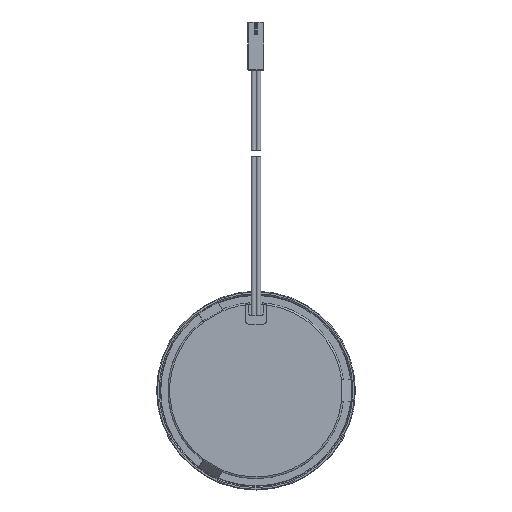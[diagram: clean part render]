
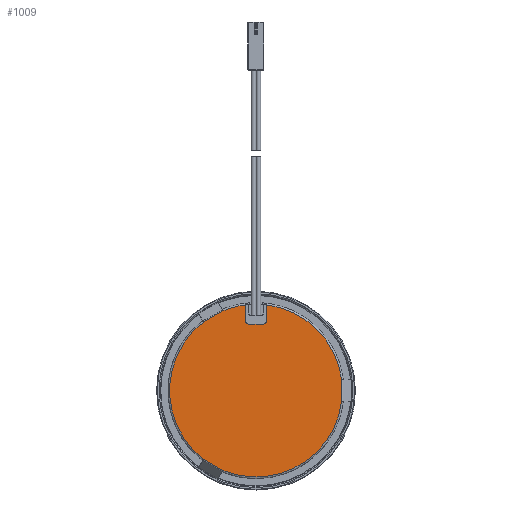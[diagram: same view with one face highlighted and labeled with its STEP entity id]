
A CAD part, front view. The second image highlights one B-rep face of the part: STEP entity #1009.
In plain terms, the highlighted planar face has unit normal (0, -1, 0) as drawn and (0, 1, 0) by its records, which use the part's own axes.
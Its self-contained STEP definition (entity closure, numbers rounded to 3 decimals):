
#101 = DIRECTION ( 'NONE',  ( 0., 0., 1. ) ) ;
#418 = DIRECTION ( 'NONE',  ( 0., 1., 0. ) ) ;
#492 = CARTESIAN_POINT ( 'NONE',  ( -26.95, 0.35, 22. ) ) ;
#668 = PLANE ( 'NONE',  #20689 ) ;
#790 = DIRECTION ( 'NONE',  ( 0., 1., 0. ) ) ;
#816 = AXIS2_PLACEMENT_3D ( 'NONE', #12785, #790, #12912 ) ;
#823 = CARTESIAN_POINT ( 'NONE',  ( 10.329, 0.35, 24.891 ) ) ;
#829 = LINE ( 'NONE', #24088, #5940 ) ;
#1009 = ADVANCED_FACE ( 'NONE', ( #19828 ), #668, .T. ) ;
#1174 = EDGE_CURVE ( 'NONE', #8204, #12842, #10904, .T. ) ;
#1903 = ORIENTED_EDGE ( 'NONE', *, *, #22301, .F. ) ;
#1961 = VECTOR ( 'NONE', #2974, 1000. ) ;
#2528 = DIRECTION ( 'NONE',  ( -1., 0., 0. ) ) ;
#2917 = ORIENTED_EDGE ( 'NONE', *, *, #1174, .T. ) ;
#2974 = DIRECTION ( 'NONE',  ( 0., 0., -1. ) ) ;
#3031 = DIRECTION ( 'NONE',  ( 0., 0., -1. ) ) ;
#3243 = CARTESIAN_POINT ( 'NONE',  ( 10.32, 0.35, 24.896 ) ) ;
#3554 = DIRECTION ( 'NONE',  ( -0.866, 0., 0.5 ) ) ;
#3573 = ORIENTED_EDGE ( 'NONE', *, *, #12156, .F. ) ;
#3637 = CARTESIAN_POINT ( 'NONE',  ( 3.25, 0.35, 23. ) ) ;
#3668 = CIRCLE ( 'NONE', #816, 26.95 ) ;
#4384 = VERTEX_POINT ( 'NONE', #20883 ) ;
#4567 = CARTESIAN_POINT ( 'NONE',  ( -2.25, 0.35, 23. ) ) ;
#4695 = CIRCLE ( 'NONE', #18973, 1. ) ;
#4930 = ORIENTED_EDGE ( 'NONE', *, *, #24999, .T. ) ;
#5271 = EDGE_CURVE ( 'NONE', #7875, #11444, #7394, .T. ) ;
#5638 = CARTESIAN_POINT ( 'NONE',  ( 16.4, 0.35, -21.386 ) ) ;
#5750 = VECTOR ( 'NONE', #2528, 1000. ) ;
#5768 = LINE ( 'NONE', #23132, #18074 ) ;
#5940 = VECTOR ( 'NONE', #22288, 1000. ) ;
#5982 = VERTEX_POINT ( 'NONE', #13988 ) ;
#6617 = VERTEX_POINT ( 'NONE', #13042 ) ;
#6796 = CARTESIAN_POINT ( 'NONE',  ( -6.852, 0.35, 34.81 ) ) ;
#7118 = VECTOR ( 'NONE', #8191, 1000. ) ;
#7320 = CARTESIAN_POINT ( 'NONE',  ( 3.25, 0.35, 0. ) ) ;
#7381 = CARTESIAN_POINT ( 'NONE',  ( 10.329, 0.35, -24.891 ) ) ;
#7394 = LINE ( 'NONE', #21050, #8276 ) ;
#7541 = EDGE_LOOP ( 'NONE', ( #21413, #17730, #3573, #21787, #19519, #2917, #7972, #8247, #21206, #9332, #22947, #7944, #18756, #13406, #1903, #23851, #11346, #4930 ) ) ;
#7691 = CIRCLE ( 'NONE', #9326, 26.95 ) ;
#7875 = VERTEX_POINT ( 'NONE', #9875 ) ;
#7914 = VECTOR ( 'NONE', #20908, 1000. ) ;
#7944 = ORIENTED_EDGE ( 'NONE', *, *, #16512, .F. ) ;
#7948 = CARTESIAN_POINT ( 'NONE',  ( -6.852, 0.35, -34.81 ) ) ;
#7972 = ORIENTED_EDGE ( 'NONE', *, *, #17054, .F. ) ;
#8191 = DIRECTION ( 'NONE',  ( 0.866, 0., 0.5 ) ) ;
#8204 = VERTEX_POINT ( 'NONE', #13019 ) ;
#8247 = ORIENTED_EDGE ( 'NONE', *, *, #5271, .F. ) ;
#8276 = VECTOR ( 'NONE', #3554, 1000. ) ;
#8715 = LINE ( 'NONE', #6796, #13624 ) ;
#9063 = CARTESIAN_POINT ( 'NONE',  ( -26.72, 0.35, 0. ) ) ;
#9326 = AXIS2_PLACEMENT_3D ( 'NONE', #22969, #20539, #13000 ) ;
#9332 = ORIENTED_EDGE ( 'NONE', *, *, #10248, .T. ) ;
#9512 = EDGE_CURVE ( 'NONE', #17573, #18003, #23989, .T. ) ;
#9559 = DIRECTION ( 'NONE',  ( 0., 0., 1. ) ) ;
#9875 = CARTESIAN_POINT ( 'NONE',  ( 16.391, 0.35, 21.391 ) ) ;
#10248 = EDGE_CURVE ( 'NONE', #11213, #17254, #3668, .T. ) ;
#10505 = DIRECTION ( 'NONE',  ( -0.866, 0., 0.5 ) ) ;
#10743 = DIRECTION ( 'NONE',  ( 0., 1., 0. ) ) ;
#10757 = AXIS2_PLACEMENT_3D ( 'NONE', #17598, #17976, #101 ) ;
#10904 = CIRCLE ( 'NONE', #14166, 26.95 ) ;
#11030 = DIRECTION ( 'NONE',  ( 0., 1., 0. ) ) ;
#11213 = VERTEX_POINT ( 'NONE', #22692 ) ;
#11346 = ORIENTED_EDGE ( 'NONE', *, *, #22928, .F. ) ;
#11444 = VERTEX_POINT ( 'NONE', #823 ) ;
#12156 = EDGE_CURVE ( 'NONE', #20946, #16753, #17623, .T. ) ;
#12358 = CARTESIAN_POINT ( 'NONE',  ( -26.72, 0.35, 3.5 ) ) ;
#12785 = CARTESIAN_POINT ( 'NONE',  ( 0., 0.35, 0. ) ) ;
#12842 = VERTEX_POINT ( 'NONE', #3243 ) ;
#12912 = DIRECTION ( 'NONE',  ( 0., 0., 1. ) ) ;
#13000 = DIRECTION ( 'NONE',  ( 0., 0., 1. ) ) ;
#13019 = CARTESIAN_POINT ( 'NONE',  ( 3.25, 0.35, 26.753 ) ) ;
#13042 = CARTESIAN_POINT ( 'NONE',  ( 10.329, 0.35, -24.891 ) ) ;
#13377 = CARTESIAN_POINT ( 'NONE',  ( 0., 0.35, 0. ) ) ;
#13406 = ORIENTED_EDGE ( 'NONE', *, *, #16712, .T. ) ;
#13624 = VECTOR ( 'NONE', #10505, 1000. ) ;
#13666 = DIRECTION ( 'NONE',  ( 0.866, 0., 0.5 ) ) ;
#13800 = LINE ( 'NONE', #7948, #7118 ) ;
#13940 = CARTESIAN_POINT ( 'NONE',  ( -26.95, 0.35, 0. ) ) ;
#13976 = EDGE_CURVE ( 'NONE', #16753, #5982, #19361, .T. ) ;
#13988 = CARTESIAN_POINT ( 'NONE',  ( -3.25, 0.35, 23. ) ) ;
#14010 = VECTOR ( 'NONE', #25141, 1000. ) ;
#14166 = AXIS2_PLACEMENT_3D ( 'NONE', #13377, #10743, #9559 ) ;
#14799 = DIRECTION ( 'NONE',  ( 0., 0., -1. ) ) ;
#14922 = VERTEX_POINT ( 'NONE', #15441 ) ;
#15342 = DIRECTION ( 'NONE',  ( -0.866, 0., 0.5 ) ) ;
#15374 = DIRECTION ( 'NONE',  ( 0., 0., 1. ) ) ;
#15441 = CARTESIAN_POINT ( 'NONE',  ( -26.72, 0.35, -3.51 ) ) ;
#15534 = CARTESIAN_POINT ( 'NONE',  ( -3.25, 0.35, 0. ) ) ;
#15635 = CARTESIAN_POINT ( 'NONE',  ( -26.72, 0.35, -3.5 ) ) ;
#16358 = CARTESIAN_POINT ( 'NONE',  ( -26.72, 0.35, 3.5 ) ) ;
#16512 = EDGE_CURVE ( 'NONE', #6617, #4384, #21162, .T. ) ;
#16712 = EDGE_CURVE ( 'NONE', #17800, #14922, #16902, .T. ) ;
#16753 = VERTEX_POINT ( 'NONE', #17854 ) ;
#16800 = CARTESIAN_POINT ( 'NONE',  ( 2.25, 0.35, 23. ) ) ;
#16902 = CIRCLE ( 'NONE', #10757, 26.95 ) ;
#17023 = CARTESIAN_POINT ( 'NONE',  ( 2.25, 0.35, 22. ) ) ;
#17054 = EDGE_CURVE ( 'NONE', #11444, #12842, #8715, .T. ) ;
#17254 = VERTEX_POINT ( 'NONE', #5638 ) ;
#17420 = EDGE_CURVE ( 'NONE', #4384, #17254, #13800, .T. ) ;
#17573 = VERTEX_POINT ( 'NONE', #16358 ) ;
#17598 = CARTESIAN_POINT ( 'NONE',  ( 0., 0.35, 0. ) ) ;
#17623 = LINE ( 'NONE', #492, #5750 ) ;
#17730 = ORIENTED_EDGE ( 'NONE', *, *, #13976, .F. ) ;
#17800 = VERTEX_POINT ( 'NONE', #20355 ) ;
#17854 = CARTESIAN_POINT ( 'NONE',  ( -2.25, 0.35, 22. ) ) ;
#17877 = EDGE_CURVE ( 'NONE', #20820, #20946, #4695, .T. ) ;
#17976 = DIRECTION ( 'NONE',  ( 0., 1., 0. ) ) ;
#18003 = VERTEX_POINT ( 'NONE', #15635 ) ;
#18074 = VECTOR ( 'NONE', #15342, 1000. ) ;
#18255 = VERTEX_POINT ( 'NONE', #20966 ) ;
#18756 = ORIENTED_EDGE ( 'NONE', *, *, #20108, .F. ) ;
#18795 = VECTOR ( 'NONE', #3031, 1000. ) ;
#18951 = VECTOR ( 'NONE', #14799, 1000. ) ;
#18973 = AXIS2_PLACEMENT_3D ( 'NONE', #16800, #11030, #15374 ) ;
#19157 = VERTEX_POINT ( 'NONE', #22818 ) ;
#19285 = LINE ( 'NONE', #23747, #21695 ) ;
#19361 = CIRCLE ( 'NONE', #21802, 1. ) ;
#19519 = ORIENTED_EDGE ( 'NONE', *, *, #24760, .F. ) ;
#19828 = FACE_OUTER_BOUND ( 'NONE', #7541, .T. ) ;
#20108 = EDGE_CURVE ( 'NONE', #17800, #6617, #19285, .T. ) ;
#20355 = CARTESIAN_POINT ( 'NONE',  ( 10.32, 0.35, -24.896 ) ) ;
#20539 = DIRECTION ( 'NONE',  ( 0., 1., 0. ) ) ;
#20689 = AXIS2_PLACEMENT_3D ( 'NONE', #13940, #418, #21748 ) ;
#20820 = VERTEX_POINT ( 'NONE', #3637 ) ;
#20883 = CARTESIAN_POINT ( 'NONE',  ( 16.391, 0.35, -21.391 ) ) ;
#20908 = DIRECTION ( 'NONE',  ( 0.866, 0., 0.5 ) ) ;
#20946 = VERTEX_POINT ( 'NONE', #17023 ) ;
#20966 = CARTESIAN_POINT ( 'NONE',  ( -3.25, 0.35, 26.753 ) ) ;
#21030 = LINE ( 'NONE', #15534, #14010 ) ;
#21050 = CARTESIAN_POINT ( 'NONE',  ( 16.391, 0.35, 21.391 ) ) ;
#21074 = EDGE_CURVE ( 'NONE', #11213, #7875, #5768, .T. ) ;
#21162 = LINE ( 'NONE', #7381, #7914 ) ;
#21206 = ORIENTED_EDGE ( 'NONE', *, *, #21074, .F. ) ;
#21413 = ORIENTED_EDGE ( 'NONE', *, *, #21464, .F. ) ;
#21464 = EDGE_CURVE ( 'NONE', #5982, #18255, #21030, .T. ) ;
#21695 = VECTOR ( 'NONE', #13666, 1000. ) ;
#21748 = DIRECTION ( 'NONE',  ( 0., 0., 1. ) ) ;
#21787 = ORIENTED_EDGE ( 'NONE', *, *, #17877, .F. ) ;
#21802 = AXIS2_PLACEMENT_3D ( 'NONE', #4567, #24249, #21944 ) ;
#21944 = DIRECTION ( 'NONE',  ( 0., 0., 1. ) ) ;
#22288 = DIRECTION ( 'NONE',  ( 0., 0., -1. ) ) ;
#22301 = EDGE_CURVE ( 'NONE', #18003, #14922, #24538, .T. ) ;
#22692 = CARTESIAN_POINT ( 'NONE',  ( 16.4, 0.35, 21.386 ) ) ;
#22818 = CARTESIAN_POINT ( 'NONE',  ( -26.72, 0.35, 3.51 ) ) ;
#22886 = LINE ( 'NONE', #7320, #1961 ) ;
#22928 = EDGE_CURVE ( 'NONE', #19157, #17573, #829, .T. ) ;
#22947 = ORIENTED_EDGE ( 'NONE', *, *, #17420, .F. ) ;
#22969 = CARTESIAN_POINT ( 'NONE',  ( 0., 0.35, 0. ) ) ;
#23132 = CARTESIAN_POINT ( 'NONE',  ( -6.852, 0.35, 34.81 ) ) ;
#23747 = CARTESIAN_POINT ( 'NONE',  ( -6.852, 0.35, -34.81 ) ) ;
#23851 = ORIENTED_EDGE ( 'NONE', *, *, #9512, .F. ) ;
#23989 = LINE ( 'NONE', #12358, #18795 ) ;
#24088 = CARTESIAN_POINT ( 'NONE',  ( -26.72, 0.35, 0. ) ) ;
#24249 = DIRECTION ( 'NONE',  ( 0., 1., 0. ) ) ;
#24538 = LINE ( 'NONE', #9063, #18951 ) ;
#24760 = EDGE_CURVE ( 'NONE', #8204, #20820, #22886, .T. ) ;
#24999 = EDGE_CURVE ( 'NONE', #19157, #18255, #7691, .T. ) ;
#25141 = DIRECTION ( 'NONE',  ( 0., 0., 1. ) ) ;
